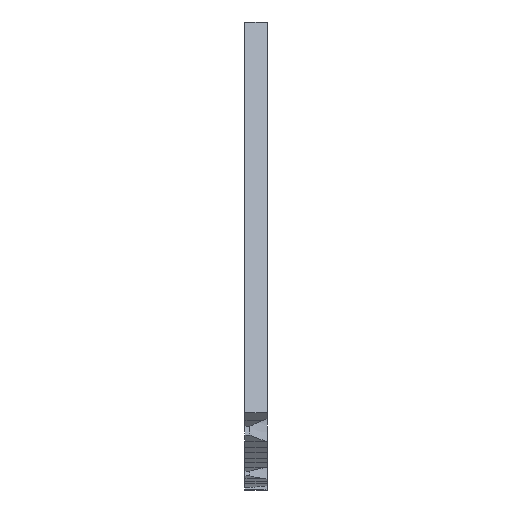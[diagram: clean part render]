
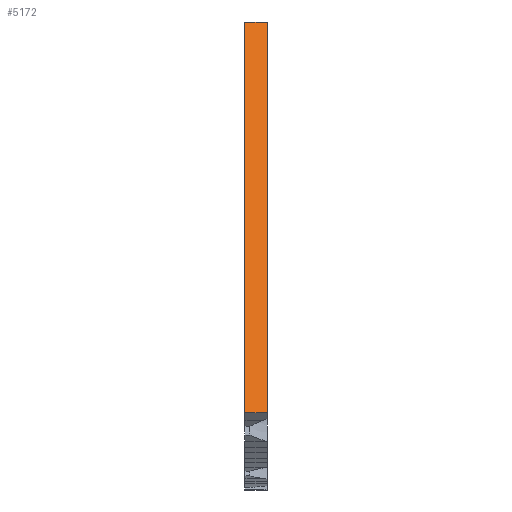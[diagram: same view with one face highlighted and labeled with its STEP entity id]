
A CAD part, front view. The second image highlights one B-rep face of the part: STEP entity #5172.
In plain terms, the highlighted planar face has unit normal (0, -0.913, 0.407).
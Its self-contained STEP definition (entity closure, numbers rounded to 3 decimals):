
#22 = VERTEX_POINT('',#23);
#23 = CARTESIAN_POINT('',(62.,-98.43,-221.078));
#32 = PLANE('',#33);
#33 = AXIS2_PLACEMENT_3D('',#34,#35,#36);
#34 = CARTESIAN_POINT('',(62.,-98.43,-221.078));
#35 = DIRECTION('',(-0.,0.397,0.918));
#36 = DIRECTION('',(0.,0.918,-0.397));
#44 = PLANE('',#45);
#45 = AXIS2_PLACEMENT_3D('',#46,#47,#48);
#46 = CARTESIAN_POINT('',(62.,0.,-184.251));
#47 = DIRECTION('',(1.,0.,0.));
#48 = DIRECTION('',(-0.,0.,1.));
#56 = EDGE_CURVE('',#22,#57,#59,.T.);
#57 = VERTEX_POINT('',#58);
#58 = CARTESIAN_POINT('',(68.,-98.43,-221.078));
#59 = SURFACE_CURVE('',#60,(#64,#71),.PCURVE_S1.);
#60 = LINE('',#61,#62);
#61 = CARTESIAN_POINT('',(62.,-98.43,-221.078));
#62 = VECTOR('',#63,1.);
#63 = DIRECTION('',(1.,0.,0.));
#64 = PCURVE('',#32,#65);
#65 = DEFINITIONAL_REPRESENTATION('',(#66),#70);
#66 = LINE('',#67,#68);
#67 = CARTESIAN_POINT('',(0.,0.));
#68 = VECTOR('',#69,1.);
#69 = DIRECTION('',(0.,-1.));
#70 = ( GEOMETRIC_REPRESENTATION_CONTEXT(2) 
PARAMETRIC_REPRESENTATION_CONTEXT() REPRESENTATION_CONTEXT('2D SPACE',''
  ) );
#71 = PCURVE('',#72,#77);
#72 = PLANE('',#73);
#73 = AXIS2_PLACEMENT_3D('',#74,#75,#76);
#74 = CARTESIAN_POINT('',(62.,-51.249,-115.107));
#75 = DIRECTION('',(0.,0.914,-0.407));
#76 = DIRECTION('',(0.,-0.407,-0.914));
#77 = DEFINITIONAL_REPRESENTATION('',(#78),#82);
#78 = LINE('',#79,#80);
#79 = CARTESIAN_POINT('',(116.,0.));
#80 = VECTOR('',#81,1.);
#81 = DIRECTION('',(0.,-1.));
#82 = ( GEOMETRIC_REPRESENTATION_CONTEXT(2) 
PARAMETRIC_REPRESENTATION_CONTEXT() REPRESENTATION_CONTEXT('2D SPACE',''
  ) );
#100 = PLANE('',#101);
#101 = AXIS2_PLACEMENT_3D('',#102,#103,#104);
#102 = CARTESIAN_POINT('',(68.,0.,-184.251));
#103 = DIRECTION('',(1.,0.,0.));
#104 = DIRECTION('',(-0.,0.,1.));
#173 = EDGE_CURVE('',#174,#22,#176,.T.);
#174 = VERTEX_POINT('',#175);
#175 = CARTESIAN_POINT('',(62.,-51.249,-115.107));
#176 = SURFACE_CURVE('',#177,(#181,#188),.PCURVE_S1.);
#177 = LINE('',#178,#179);
#178 = CARTESIAN_POINT('',(62.,-51.249,-115.107));
#179 = VECTOR('',#180,1.);
#180 = DIRECTION('',(0.,-0.407,-0.914));
#181 = PCURVE('',#44,#182);
#182 = DEFINITIONAL_REPRESENTATION('',(#183),#187);
#183 = LINE('',#184,#185);
#184 = CARTESIAN_POINT('',(69.144,51.249));
#185 = VECTOR('',#186,1.);
#186 = DIRECTION('',(-0.914,0.407));
#187 = ( GEOMETRIC_REPRESENTATION_CONTEXT(2) 
PARAMETRIC_REPRESENTATION_CONTEXT() REPRESENTATION_CONTEXT('2D SPACE',''
  ) );
#188 = PCURVE('',#72,#189);
#189 = DEFINITIONAL_REPRESENTATION('',(#190),#194);
#190 = LINE('',#191,#192);
#191 = CARTESIAN_POINT('',(0.,0.));
#192 = VECTOR('',#193,1.);
#193 = DIRECTION('',(1.,0.));
#194 = ( GEOMETRIC_REPRESENTATION_CONTEXT(2) 
PARAMETRIC_REPRESENTATION_CONTEXT() REPRESENTATION_CONTEXT('2D SPACE',''
  ) );
#2636 = PLANE('',#2637);
#2637 = AXIS2_PLACEMENT_3D('',#2638,#2639,#2640);
#2638 = CARTESIAN_POINT('',(62.,-48.765,-116.181));
#2639 = DIRECTION('',(0.,-0.397,-0.918));
#2640 = DIRECTION('',(0.,-0.918,0.397));
#3179 = EDGE_CURVE('',#3180,#57,#3182,.T.);
#3180 = VERTEX_POINT('',#3181);
#3181 = CARTESIAN_POINT('',(68.,-51.249,-115.107));
#3182 = SURFACE_CURVE('',#3183,(#3187,#3194),.PCURVE_S1.);
#3183 = LINE('',#3184,#3185);
#3184 = CARTESIAN_POINT('',(68.,-51.249,-115.107));
#3185 = VECTOR('',#3186,1.);
#3186 = DIRECTION('',(0.,-0.407,-0.914));
#3187 = PCURVE('',#100,#3188);
#3188 = DEFINITIONAL_REPRESENTATION('',(#3189),#3193);
#3189 = LINE('',#3190,#3191);
#3190 = CARTESIAN_POINT('',(69.144,51.249));
#3191 = VECTOR('',#3192,1.);
#3192 = DIRECTION('',(-0.914,0.407));
#3193 = ( GEOMETRIC_REPRESENTATION_CONTEXT(2) 
PARAMETRIC_REPRESENTATION_CONTEXT() REPRESENTATION_CONTEXT('2D SPACE',''
  ) );
#3194 = PCURVE('',#72,#3195);
#3195 = DEFINITIONAL_REPRESENTATION('',(#3196),#3200);
#3196 = LINE('',#3197,#3198);
#3197 = CARTESIAN_POINT('',(0.,-6.));
#3198 = VECTOR('',#3199,1.);
#3199 = DIRECTION('',(1.,0.));
#3200 = ( GEOMETRIC_REPRESENTATION_CONTEXT(2) 
PARAMETRIC_REPRESENTATION_CONTEXT() REPRESENTATION_CONTEXT('2D SPACE',''
  ) );
#5172 = ADVANCED_FACE('',(#5173),#72,.F.);
#5173 = FACE_BOUND('',#5174,.F.);
#5174 = EDGE_LOOP('',(#5175,#5196,#5197,#5198));
#5175 = ORIENTED_EDGE('',*,*,#5176,.T.);
#5176 = EDGE_CURVE('',#174,#3180,#5177,.T.);
#5177 = SURFACE_CURVE('',#5178,(#5182,#5189),.PCURVE_S1.);
#5178 = LINE('',#5179,#5180);
#5179 = CARTESIAN_POINT('',(62.,-51.249,-115.107));
#5180 = VECTOR('',#5181,1.);
#5181 = DIRECTION('',(1.,0.,0.));
#5182 = PCURVE('',#72,#5183);
#5183 = DEFINITIONAL_REPRESENTATION('',(#5184),#5188);
#5184 = LINE('',#5185,#5186);
#5185 = CARTESIAN_POINT('',(0.,0.));
#5186 = VECTOR('',#5187,1.);
#5187 = DIRECTION('',(0.,-1.));
#5188 = ( GEOMETRIC_REPRESENTATION_CONTEXT(2) 
PARAMETRIC_REPRESENTATION_CONTEXT() REPRESENTATION_CONTEXT('2D SPACE',''
  ) );
#5189 = PCURVE('',#2636,#5190);
#5190 = DEFINITIONAL_REPRESENTATION('',(#5191),#5195);
#5191 = LINE('',#5192,#5193);
#5192 = CARTESIAN_POINT('',(2.707,0.));
#5193 = VECTOR('',#5194,1.);
#5194 = DIRECTION('',(0.,-1.));
#5195 = ( GEOMETRIC_REPRESENTATION_CONTEXT(2) 
PARAMETRIC_REPRESENTATION_CONTEXT() REPRESENTATION_CONTEXT('2D SPACE',''
  ) );
#5196 = ORIENTED_EDGE('',*,*,#3179,.T.);
#5197 = ORIENTED_EDGE('',*,*,#56,.F.);
#5198 = ORIENTED_EDGE('',*,*,#173,.F.);
